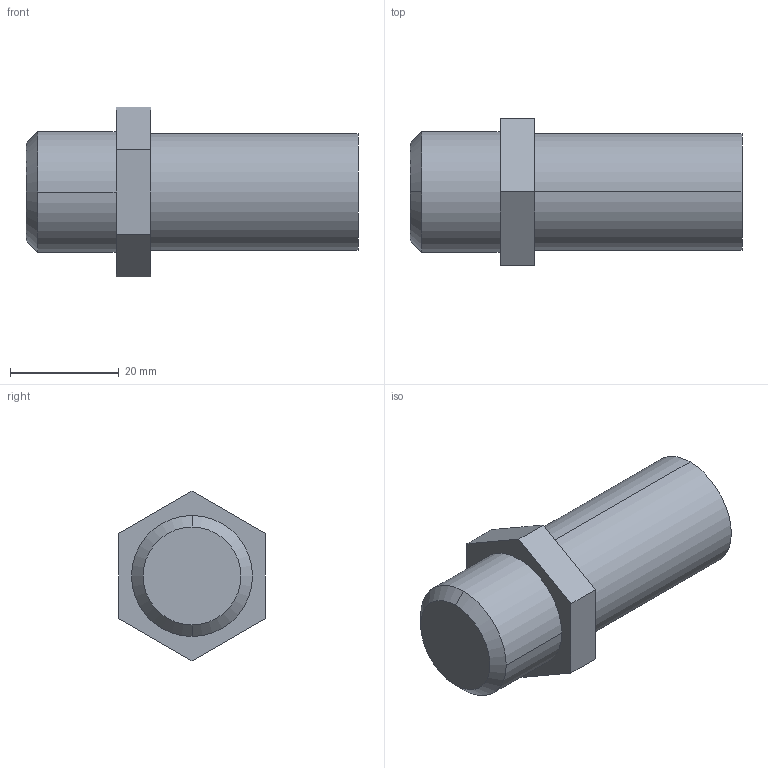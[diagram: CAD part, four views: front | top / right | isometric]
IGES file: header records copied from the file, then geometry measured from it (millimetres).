
Start section: SolidWorks IGES file using analytic representation for surfaces
Global section: file name: S:\Product Visuals\FILES FOR PUBLICATION\SOLID MODELS FOR PUBLICATION\30\5\front-straight-outlet\6\w-(weldable)\7\fitting-weldable-08.IGS; native system: SolidWorks 2012; preprocessor: SolidWorks 2012; author: rachel.dressel; date: 121113.085642; units: inch
Bounding box: 60.99 x 27 x 31.18 mm (x, y, z)
Volume: 24062.2 mm3; surface area: 5487.8 mm2
Topology: 1 solids, 1 shells, 16 faces, 36 edges, 24 vertices
Faces by surface type: plane 10, revolution 6
